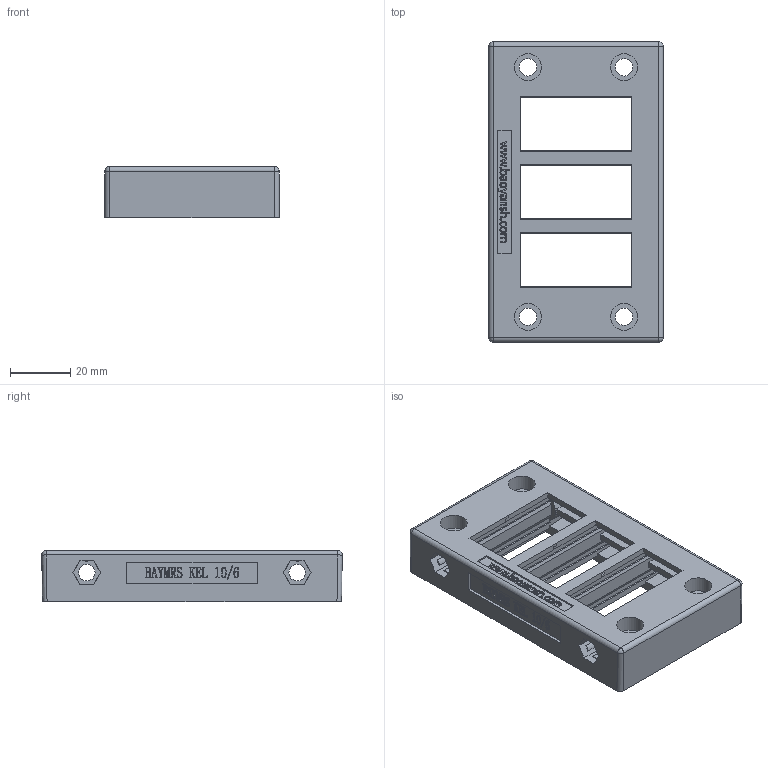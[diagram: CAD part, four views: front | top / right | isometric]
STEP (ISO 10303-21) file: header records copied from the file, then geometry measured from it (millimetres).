
FILE_DESCRIPTION(/* description */ (''),/* implementation_level */ '2;1');
FILE_NAME(/* name */ 'KEL 10-6.stp',/* time_stamp */ '2018-09-10T16:58:00+08:00',/* author */ (''),/* organization */ (''),/* preprocessor_version */ 'ST-DEVELOPER v16',/* originating_system */ 'SIEMENS PLM Software NX 10.0',/* authorisation */ '');
FILE_SCHEMA (('AP203_CONFIGURATION_CONTROLLED_3D_DESIGN_OF_MECHANICAL_PARTS_AND_ASSEMBLIES_MIM_LF { 1 0 10303 403 2 1 2}'));
Length unit declared in the file: millimetre
Products named in the file (1): 914724A4708Eu0rh
Bounding box: 58 x 100 x 17 mm (x, y, z)
Volume: 45077.1 mm3; surface area: 29782.5 mm2
Topology: 1 solids, 5 shells, 940 faces, 2682 edges, 1801 vertices
Faces by surface type: plane 539, extrusion 219, cylinder 104, cone 32, bspline 24, sphere 12, torus 10
Full cylindrical faces by diameter (mm): 5.5 x2, 5.8 x4, 9 x6
Entity records: 34231 total; most frequent: CARTESIAN_POINT 11056, ORIENTED_EDGE 5304, DIRECTION 3767, EDGE_CURVE 2652, VERTEX_POINT 1793, VECTOR 1725, LINE 1506, B_SPLINE_CURVE_WITH_KNOTS 1042
